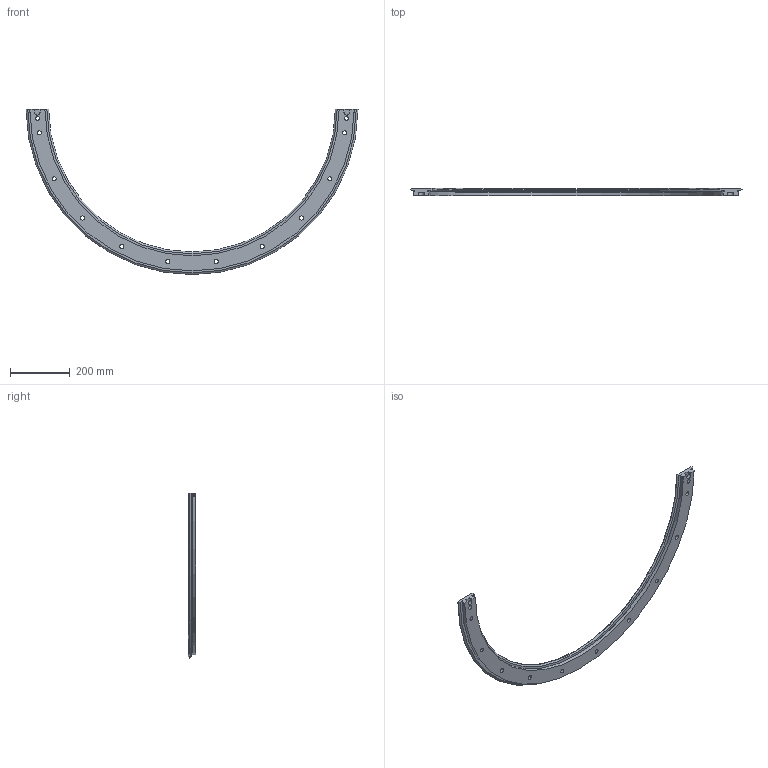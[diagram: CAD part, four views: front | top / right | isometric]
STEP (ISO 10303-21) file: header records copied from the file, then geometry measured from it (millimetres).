
FILE_DESCRIPTION(/* description */ ('STEP AP203'),/* implementation_level */ '2;1');
FILE_NAME(/* name */ 'TR76 1033 R180',/* time_stamp */ '2022-06-28T08:59:03+02:00',/* author */ ('License CC BY-ND 4.0'),/* organization */ ('CADENAS'),/* preprocessor_version */ 'ST-DEVELOPER v18.102',/* originating_system */ 'PARTsolutions',/* authorisation */ ' ');
FILE_SCHEMA (('CONFIG_CONTROL_DESIGN'));
Length unit declared in the file: millimetre
Products named in the file (1): TR76 1033 R180
Bounding box: 1108.6 x 24 x 551.8 mm (x, y, z)
Volume: 2134447.7 mm3; surface area: 343868.8 mm2
Topology: 1 solids, 1 shells, 98 faces, 231 edges, 155 vertices
Faces by surface type: plane 58, cylinder 34, cone 4, torus 2
Full cylindrical faces by diameter (mm): 8 x4, 14 x12, 20 x12
Entity records: 2790 total; most frequent: CARTESIAN_POINT 531, DIRECTION 454, ORIENTED_EDGE 400, EDGE_CURVE 200, AXIS2_PLACEMENT_3D 171, EDGE_LOOP 170, FACE_BOUND 170, VERTEX_POINT 152
